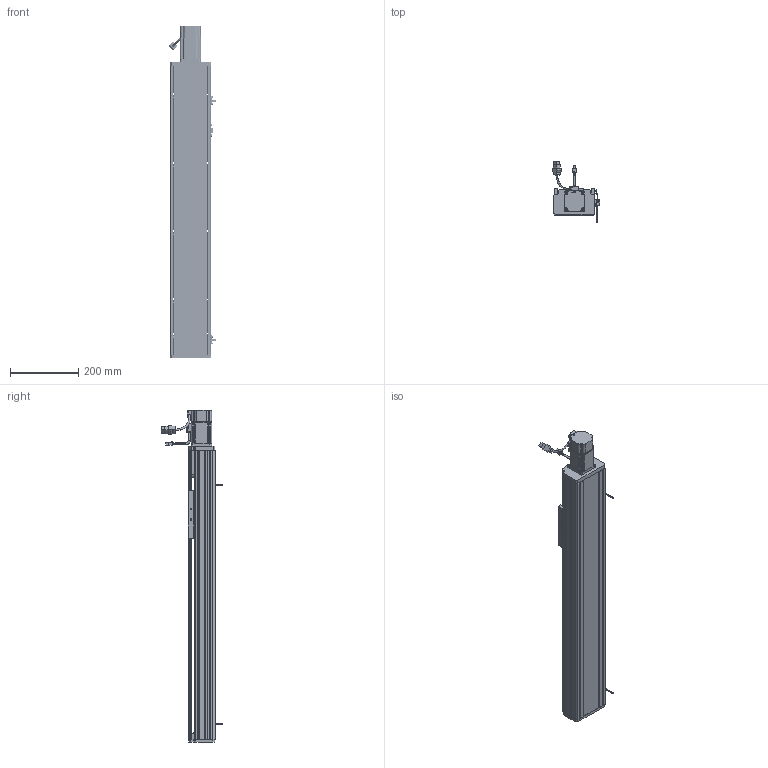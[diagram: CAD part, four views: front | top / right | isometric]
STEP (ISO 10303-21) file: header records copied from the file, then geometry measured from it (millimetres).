
FILE_DESCRIPTION (( 'STEP AP214' ), '1' );
FILE_NAME ('CTH120-600.STEP', '2019-11-20T02:41:53', ( '微软用户' ), ( '微软中国' ), 'SwSTEP 2.0', 'SolidWorks 2017', '' );
FILE_SCHEMA (( 'AUTOMOTIVE_DESIGN' ));
Length unit declared in the file: millimetre
Products named in the file (33): 7001-DB; 7001; 噩砃EGH15-CA; 粣創揤啣; M3-L8囀鞠褒蹟佪; COL12B-粣遠; CT12耀郪-覜茼んえ; 坶踡蹟譫; EE-SX672-BR; 120耀郪-粣創釱; M4-L6半圆头内六角螺丝; 120耀郪-傷啣; M5-L20囀鞠褒蹟佪; 120模组-盖子_默认<按加工>; M5-L12囀鞠褒蹟佪; 120耀郪-侜督儂啣; 怢湛200W侜督萇儂ECMA-CX0602ES; SFH1605; 盓傅釱蚾饜极; 136蹟簽蟀諉輸; 6000; 120模组-移动座_默认<按加工>; 120耀郪-盓傅釱; SFH1605-450; M4-L16囀鞠褒蹟佪; 120模组-底座_默认<按加工>; EGH15-CA; EGH15_RAIL; CTH120-600; 珨极宒粣創釱; 遣喳蝶15x12x8; M4-L10囀鞠褒蹟佪; M4-L22囀鞠褒蹟佪
Assembly tree (90 placements, depth 4):
  CTH120-600
    120模组-底座_默认<按加工>
    SFH1605-450
    120模组-移动座_默认<按加工>
    136蹟簽蟀諉輸
    SFH1605
    120耀郪-侜督儂啣
    120模组-盖子_默认<按加工>
    120耀郪-傷啣
    珨极宒粣創釱
      120耀郪-粣創釱
      坶踡蹟譫
      COL12B-粣遠  x2
      粣創揤啣
      7001-DB
        7001  x2
      M4-L22囀鞠褒蹟佪  x6
      M4-L10囀鞠褒蹟佪  x4
      遣喳蝶15x12x8
    EGH15_RAIL  x2
    EGH15-CA  x2
    M4-L16囀鞠褒蹟佪  x8
    M4-L10囀鞠褒蹟佪  x22
    盓傅釱蚾饜极
      120耀郪-盓傅釱
      6000
      遣喳蝶15x12x8  x2
      M4-L22囀鞠褒蹟佪  x2
    怢湛200W侜督萇儂ECMA-CX0602ES
    M5-L12囀鞠褒蹟佪  x3
    M5-L20囀鞠褒蹟佪  x4
    M4-L6半圆头内六角螺丝  x4
    EE-SX672-BR  x2
    CT12耀郪-覜茼んえ
    M3-L8囀鞠褒蹟佪  x4
    噩砃EGH15-CA  x2
Bounding box: 137.94 x 179.67 x 972 mm (x, y, z)
Volume: 3797847.3 mm3; surface area: 1156399.9 mm2
Topology: 87 solids, 96 shells, 5270 faces, 13907 edges, 8897 vertices
Faces by surface type: plane 2853, cylinder 1544, cone 539, bspline 241, torus 81, sphere 12
Entity records: 111888 total; most frequent: CARTESIAN_POINT 32906, ORIENTED_EDGE 16624, DIRECTION 15045, EDGE_CURVE 8312, VERTEX_POINT 5455, AXIS2_PLACEMENT_3D 5123, VECTOR 4799, LINE 4799
